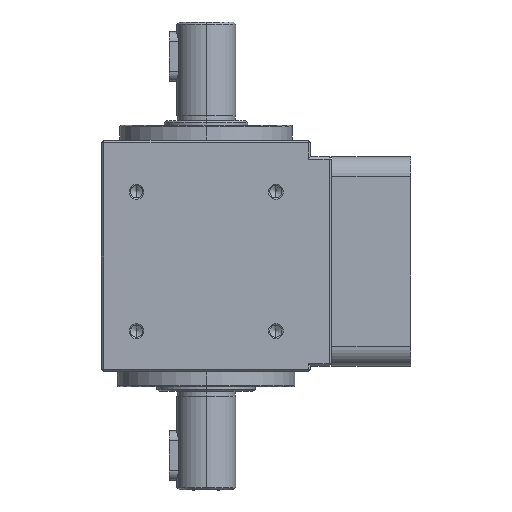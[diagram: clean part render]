
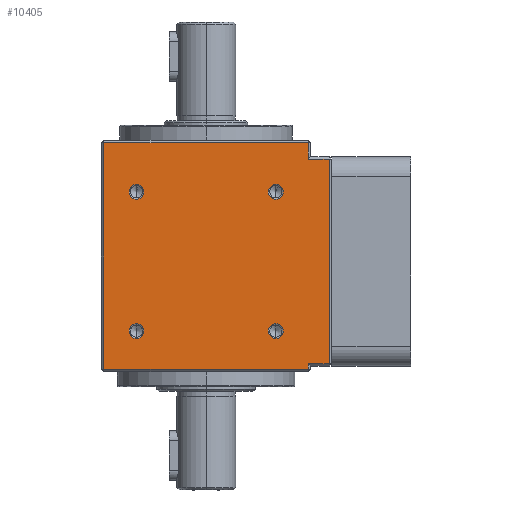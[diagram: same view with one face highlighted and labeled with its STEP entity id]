
A CAD part, left-side view. The second image highlights one B-rep face of the part: STEP entity #10405.
In plain terms, the highlighted planar face has unit normal (-1, 0, 0) as drawn and (1, 0, 0) by its records, which use the part's own axes.
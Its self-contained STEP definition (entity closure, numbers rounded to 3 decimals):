
#43 = CIRCLE ( 'NONE', #14054, 1.5 ) ;
#82 = LINE ( 'NONE', #490, #2398 ) ;
#305 = CARTESIAN_POINT ( 'NONE',  ( 21.25, -14.142, 14.958 ) ) ;
#362 = DIRECTION ( 'NONE',  ( 0., 0., -1. ) ) ;
#490 = CARTESIAN_POINT ( 'NONE',  ( 21.25, 20.75, 53. ) ) ;
#579 = VERTEX_POINT ( 'NONE', #23308 ) ;
#921 = EDGE_CURVE ( 'NONE', #8760, #12549, #5325, .T. ) ;
#1654 = CARTESIAN_POINT ( 'NONE',  ( 21.25, -14.142, 11.958 ) ) ;
#1809 = DIRECTION ( 'NONE',  ( 0., 0., -1. ) ) ;
#2398 = VECTOR ( 'NONE', #17532, 1000. ) ;
#2910 = EDGE_LOOP ( 'NONE', ( #11927, #24449 ) ) ;
#3060 = VERTEX_POINT ( 'NONE', #305 ) ;
#3286 = ORIENTED_EDGE ( 'NONE', *, *, #25714, .F. ) ;
#3428 = ORIENTED_EDGE ( 'NONE', *, *, #11325, .F. ) ;
#3458 = DIRECTION ( 'NONE',  ( -1., 0., 0. ) ) ;
#4036 = EDGE_CURVE ( 'NONE', #5464, #22552, #7505, .T. ) ;
#4167 = ORIENTED_EDGE ( 'NONE', *, *, #16977, .T. ) ;
#4267 = CARTESIAN_POINT ( 'NONE',  ( 21.25, 20.75, 49.5 ) ) ;
#4686 = ORIENTED_EDGE ( 'NONE', *, *, #6817, .T. ) ;
#4741 = ORIENTED_EDGE ( 'NONE', *, *, #23302, .F. ) ;
#4752 = CIRCLE ( 'NONE', #28215, 1.5 ) ;
#4918 = VECTOR ( 'NONE', #17377, 1000. ) ;
#4960 = CIRCLE ( 'NONE', #20448, 1.5 ) ;
#5096 = VECTOR ( 'NONE', #22318, 1000. ) ;
#5325 = LINE ( 'NONE', #17588, #23870 ) ;
#5373 = EDGE_CURVE ( 'NONE', #31120, #21058, #19153, .T. ) ;
#5464 = VERTEX_POINT ( 'NONE', #8953 ) ;
#5567 = ORIENTED_EDGE ( 'NONE', *, *, #28406, .T. ) ;
#5600 = DIRECTION ( 'NONE',  ( 0., 0., -1. ) ) ;
#5859 = DIRECTION ( 'NONE',  ( 0., 0., 1. ) ) ;
#6008 = FACE_BOUND ( 'NONE', #24046, .T. ) ;
#6101 = EDGE_CURVE ( 'NONE', #16942, #579, #4752, .T. ) ;
#6239 = CARTESIAN_POINT ( 'NONE',  ( 21.25, -20.75, 3.5 ) ) ;
#6620 = DIRECTION ( 'NONE',  ( 0., 0., -1. ) ) ;
#6810 = LINE ( 'NONE', #27383, #4918 ) ;
#6817 = EDGE_CURVE ( 'NONE', #19167, #29732, #29673, .T. ) ;
#7000 = CARTESIAN_POINT ( 'NONE',  ( 21.25, 14.142, 11.958 ) ) ;
#7191 = FACE_OUTER_BOUND ( 'NONE', #30756, .T. ) ;
#7226 = ORIENTED_EDGE ( 'NONE', *, *, #15627, .T. ) ;
#7505 = CIRCLE ( 'NONE', #22086, 1.5 ) ;
#7871 = CARTESIAN_POINT ( 'NONE',  ( 21.25, -21.25, 6.85 ) ) ;
#8288 = EDGE_CURVE ( 'NONE', #18192, #8760, #82, .T. ) ;
#8760 = VERTEX_POINT ( 'NONE', #4267 ) ;
#8766 = CARTESIAN_POINT ( 'NONE',  ( 21.25, -14.142, 41.742 ) ) ;
#8953 = CARTESIAN_POINT ( 'NONE',  ( 21.25, -14.142, 40.242 ) ) ;
#9056 = DIRECTION ( 'NONE',  ( 0., 0., -1. ) ) ;
#9490 = CARTESIAN_POINT ( 'NONE',  ( 21.25, -20.75, 48.35 ) ) ;
#9545 = VECTOR ( 'NONE', #12404, 1000. ) ;
#9820 = FACE_BOUND ( 'NONE', #28736, .T. ) ;
#10191 = CARTESIAN_POINT ( 'NONE',  ( 21.25, 14.142, 13.458 ) ) ;
#10402 = CARTESIAN_POINT ( 'NONE',  ( 21.25, 14.142, 43.242 ) ) ;
#10405 = ADVANCED_FACE ( 'NONE', ( #7191, #9820, #14381, #6008, #21148 ), #28304, .F. ) ;
#11004 = EDGE_CURVE ( 'NONE', #19719, #16517, #6810, .T. ) ;
#11325 = EDGE_CURVE ( 'NONE', #22552, #5464, #31006, .T. ) ;
#11927 = ORIENTED_EDGE ( 'NONE', *, *, #29148, .F. ) ;
#11959 = DIRECTION ( 'NONE',  ( 0., 0., -1. ) ) ;
#12404 = DIRECTION ( 'NONE',  ( 0., 1., 0. ) ) ;
#12549 = VERTEX_POINT ( 'NONE', #15764 ) ;
#12642 = CARTESIAN_POINT ( 'NONE',  ( 21.25, 14.142, 14.958 ) ) ;
#12653 = CIRCLE ( 'NONE', #19559, 1.5 ) ;
#13187 = ORIENTED_EDGE ( 'NONE', *, *, #14845, .F. ) ;
#13260 = ORIENTED_EDGE ( 'NONE', *, *, #28960, .T. ) ;
#13547 = CARTESIAN_POINT ( 'NONE',  ( 21.25, 20.75, 3.5 ) ) ;
#13773 = DIRECTION ( 'NONE',  ( 1., 0., 0. ) ) ;
#14054 = AXIS2_PLACEMENT_3D ( 'NONE', #10191, #22120, #362 ) ;
#14204 = CARTESIAN_POINT ( 'NONE',  ( 21.25, 14.142, 41.742 ) ) ;
#14288 = CARTESIAN_POINT ( 'NONE',  ( 21.25, -14.142, 13.458 ) ) ;
#14381 = FACE_BOUND ( 'NONE', #25470, .T. ) ;
#14565 = LINE ( 'NONE', #18936, #25907 ) ;
#14577 = AXIS2_PLACEMENT_3D ( 'NONE', #14288, #23596, #26233 ) ;
#14845 = EDGE_CURVE ( 'NONE', #24781, #3060, #12653, .T. ) ;
#15627 = EDGE_CURVE ( 'NONE', #29732, #18192, #14565, .T. ) ;
#15764 = CARTESIAN_POINT ( 'NONE',  ( 21.25, -20.75, 49.5 ) ) ;
#15996 = LINE ( 'NONE', #7871, #9545 ) ;
#16191 = DIRECTION ( 'NONE',  ( 0., 0., -1. ) ) ;
#16281 = AXIS2_PLACEMENT_3D ( 'NONE', #25657, #26082, #9056 ) ;
#16517 = VERTEX_POINT ( 'NONE', #18727 ) ;
#16715 = CARTESIAN_POINT ( 'NONE',  ( 21.25, -25., 6.85 ) ) ;
#16942 = VERTEX_POINT ( 'NONE', #10402 ) ;
#16977 = EDGE_CURVE ( 'NONE', #12549, #19719, #23542, .T. ) ;
#17377 = DIRECTION ( 'NONE',  ( 0., -1., 0. ) ) ;
#17484 = CARTESIAN_POINT ( 'NONE',  ( 21.25, 14.142, 41.742 ) ) ;
#17532 = DIRECTION ( 'NONE',  ( 0., 0., 1. ) ) ;
#17588 = CARTESIAN_POINT ( 'NONE',  ( 21.25, -21.25, 49.5 ) ) ;
#18123 = DIRECTION ( 'NONE',  ( 0., 0., -1. ) ) ;
#18192 = VERTEX_POINT ( 'NONE', #13547 ) ;
#18475 = DIRECTION ( 'NONE',  ( 0., 0., -1. ) ) ;
#18727 = CARTESIAN_POINT ( 'NONE',  ( 21.25, -25., 48.35 ) ) ;
#18794 = CARTESIAN_POINT ( 'NONE',  ( 21.25, -14.142, 13.458 ) ) ;
#18934 = AXIS2_PLACEMENT_3D ( 'NONE', #20990, #3458, #5859 ) ;
#18936 = CARTESIAN_POINT ( 'NONE',  ( 21.25, 21.25, 3.5 ) ) ;
#19153 = CIRCLE ( 'NONE', #16281, 1.5 ) ;
#19167 = VERTEX_POINT ( 'NONE', #31163 ) ;
#19234 = VERTEX_POINT ( 'NONE', #16715 ) ;
#19360 = VECTOR ( 'NONE', #6620, 1000. ) ;
#19412 = CIRCLE ( 'NONE', #14577, 1.5 ) ;
#19559 = AXIS2_PLACEMENT_3D ( 'NONE', #18794, #20893, #18475 ) ;
#19719 = VERTEX_POINT ( 'NONE', #9490 ) ;
#19834 = CARTESIAN_POINT ( 'NONE',  ( 21.25, -20.75, 53. ) ) ;
#20448 = AXIS2_PLACEMENT_3D ( 'NONE', #14204, #13773, #11959 ) ;
#20893 = DIRECTION ( 'NONE',  ( 1., 0., 0. ) ) ;
#20977 = ORIENTED_EDGE ( 'NONE', *, *, #11004, .T. ) ;
#20990 = CARTESIAN_POINT ( 'NONE',  ( 21.25, -21.25, 53. ) ) ;
#21058 = VERTEX_POINT ( 'NONE', #7000 ) ;
#21120 = CARTESIAN_POINT ( 'NONE',  ( 21.25, -14.142, 41.742 ) ) ;
#21148 = FACE_BOUND ( 'NONE', #2910, .T. ) ;
#22086 = AXIS2_PLACEMENT_3D ( 'NONE', #21120, #23477, #1809 ) ;
#22120 = DIRECTION ( 'NONE',  ( 1., 0., 0. ) ) ;
#22318 = DIRECTION ( 'NONE',  ( 0., 0., -1. ) ) ;
#22529 = DIRECTION ( 'NONE',  ( 1., 0., 0. ) ) ;
#22552 = VERTEX_POINT ( 'NONE', #23734 ) ;
#23302 = EDGE_CURVE ( 'NONE', #3060, #24781, #19412, .T. ) ;
#23308 = CARTESIAN_POINT ( 'NONE',  ( 21.25, 14.142, 40.242 ) ) ;
#23477 = DIRECTION ( 'NONE',  ( 1., 0., 0. ) ) ;
#23542 = LINE ( 'NONE', #19834, #27677 ) ;
#23596 = DIRECTION ( 'NONE',  ( 1., 0., 0. ) ) ;
#23734 = CARTESIAN_POINT ( 'NONE',  ( 21.25, -14.142, 43.242 ) ) ;
#23753 = CARTESIAN_POINT ( 'NONE',  ( 21.25, -25., 53. ) ) ;
#23870 = VECTOR ( 'NONE', #26904, 1000. ) ;
#24046 = EDGE_LOOP ( 'NONE', ( #3286, #30185 ) ) ;
#24190 = AXIS2_PLACEMENT_3D ( 'NONE', #8766, #25681, #16191 ) ;
#24345 = CARTESIAN_POINT ( 'NONE',  ( 21.25, -20.75, 53. ) ) ;
#24449 = ORIENTED_EDGE ( 'NONE', *, *, #5373, .F. ) ;
#24488 = ORIENTED_EDGE ( 'NONE', *, *, #921, .T. ) ;
#24781 = VERTEX_POINT ( 'NONE', #1654 ) ;
#24793 = ORIENTED_EDGE ( 'NONE', *, *, #8288, .T. ) ;
#25396 = LINE ( 'NONE', #23753, #19360 ) ;
#25470 = EDGE_LOOP ( 'NONE', ( #26443, #3428 ) ) ;
#25657 = CARTESIAN_POINT ( 'NONE',  ( 21.25, 14.142, 13.458 ) ) ;
#25681 = DIRECTION ( 'NONE',  ( 1., 0., 0. ) ) ;
#25714 = EDGE_CURVE ( 'NONE', #579, #16942, #4960, .T. ) ;
#25907 = VECTOR ( 'NONE', #26533, 1000. ) ;
#26082 = DIRECTION ( 'NONE',  ( 1., 0., 0. ) ) ;
#26233 = DIRECTION ( 'NONE',  ( 0., 0., -1. ) ) ;
#26443 = ORIENTED_EDGE ( 'NONE', *, *, #4036, .F. ) ;
#26533 = DIRECTION ( 'NONE',  ( 0., 1., 0. ) ) ;
#26904 = DIRECTION ( 'NONE',  ( 0., -1., 0. ) ) ;
#27383 = CARTESIAN_POINT ( 'NONE',  ( 21.25, -25.5, 48.35 ) ) ;
#27677 = VECTOR ( 'NONE', #18123, 1000. ) ;
#28215 = AXIS2_PLACEMENT_3D ( 'NONE', #17484, #22529, #5600 ) ;
#28304 = PLANE ( 'NONE',  #18934 ) ;
#28406 = EDGE_CURVE ( 'NONE', #19234, #19167, #15996, .T. ) ;
#28736 = EDGE_LOOP ( 'NONE', ( #13187, #4741 ) ) ;
#28960 = EDGE_CURVE ( 'NONE', #16517, #19234, #25396, .T. ) ;
#29148 = EDGE_CURVE ( 'NONE', #21058, #31120, #43, .T. ) ;
#29673 = LINE ( 'NONE', #24345, #5096 ) ;
#29732 = VERTEX_POINT ( 'NONE', #6239 ) ;
#30185 = ORIENTED_EDGE ( 'NONE', *, *, #6101, .F. ) ;
#30756 = EDGE_LOOP ( 'NONE', ( #13260, #5567, #4686, #7226, #24793, #24488, #4167, #20977 ) ) ;
#31006 = CIRCLE ( 'NONE', #24190, 1.5 ) ;
#31120 = VERTEX_POINT ( 'NONE', #12642 ) ;
#31163 = CARTESIAN_POINT ( 'NONE',  ( 21.25, -20.75, 6.85 ) ) ;
